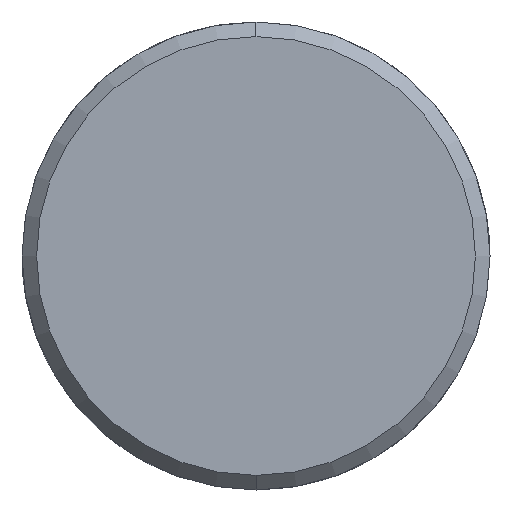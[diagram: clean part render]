
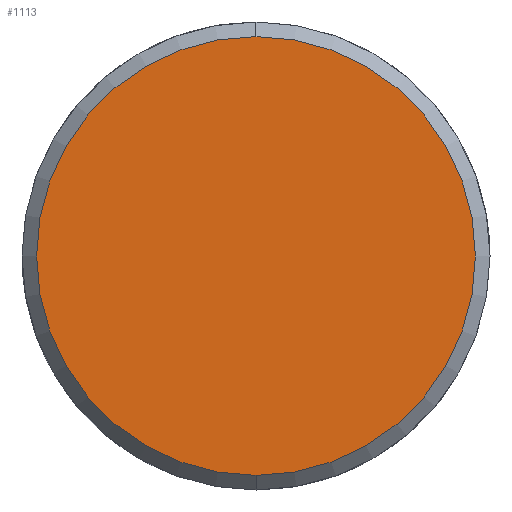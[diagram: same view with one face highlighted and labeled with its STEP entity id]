
A CAD part, left-side view. The second image highlights one B-rep face of the part: STEP entity #1113.
In plain terms, the highlighted planar face has unit normal (-1, 0, 0).
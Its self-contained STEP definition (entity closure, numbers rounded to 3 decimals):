
#1045=CARTESIAN_POINT('Vertex',(-6.,0.,-15.)) ;
#1048=CARTESIAN_POINT('Axis2P3D Location',(-6.,0.,0.)) ;
#1052=CARTESIAN_POINT('Vertex',(-6.,15.,0.)) ;
#1055=CARTESIAN_POINT('Axis2P3D Location',(-6.,0.,0.)) ;
#1059=CARTESIAN_POINT('Vertex',(-6.,0.,15.)) ;
#1081=CARTESIAN_POINT('Axis2P3D Location',(-6.,0.,0.)) ;
#1085=CARTESIAN_POINT('Vertex',(-6.,-15.,0.)) ;
#1088=CARTESIAN_POINT('Axis2P3D Location',(-6.,0.,0.)) ;
#1102=CARTESIAN_POINT('Axis2P3D Location',(-6.,0.,0.)) ;
#1049=DIRECTION('Axis2P3D Direction',(1.,0.,-0.)) ;
#1056=DIRECTION('Axis2P3D Direction',(1.,0.,-0.)) ;
#1082=DIRECTION('Axis2P3D Direction',(1.,0.,-0.)) ;
#1089=DIRECTION('Axis2P3D Direction',(1.,0.,-0.)) ;
#1103=DIRECTION('Axis2P3D Direction',(1.,0.,-0.)) ;
#1104=DIRECTION('Axis2P3D XDirection',(-0.,0.,-1.)) ;
#1050=AXIS2_PLACEMENT_3D('Circle Axis2P3D',#1048,#1049,$) ;
#1057=AXIS2_PLACEMENT_3D('Circle Axis2P3D',#1055,#1056,$) ;
#1083=AXIS2_PLACEMENT_3D('Circle Axis2P3D',#1081,#1082,$) ;
#1090=AXIS2_PLACEMENT_3D('Circle Axis2P3D',#1088,#1089,$) ;
#1105=AXIS2_PLACEMENT_3D('Plane Axis2P3D',#1102,#1103,#1104) ;
#1108=ORIENTED_EDGE('',*,*,#1054,.F.) ;
#1109=ORIENTED_EDGE('',*,*,#1092,.F.) ;
#1110=ORIENTED_EDGE('',*,*,#1087,.F.) ;
#1111=ORIENTED_EDGE('',*,*,#1061,.F.) ;
#1113=ADVANCED_FACE('351-20X86X140',(#1112),#1106,.F.) ;
#1051=CIRCLE('generated circle',#1050,15.) ;
#1058=CIRCLE('generated circle',#1057,15.) ;
#1084=CIRCLE('generated circle',#1083,15.) ;
#1091=CIRCLE('generated circle',#1090,15.) ;
#1054=EDGE_CURVE('',#1046,#1053,#1051,.T.) ;
#1061=EDGE_CURVE('',#1053,#1060,#1058,.T.) ;
#1087=EDGE_CURVE('',#1060,#1086,#1084,.T.) ;
#1092=EDGE_CURVE('',#1086,#1046,#1091,.T.) ;
#1107=EDGE_LOOP('',(#1108,#1109,#1110,#1111)) ;
#1112=FACE_OUTER_BOUND('',#1107,.T.) ;
#1106=PLANE('Plane',#1105) ;
#1046=VERTEX_POINT('',#1045) ;
#1053=VERTEX_POINT('',#1052) ;
#1060=VERTEX_POINT('',#1059) ;
#1086=VERTEX_POINT('',#1085) ;
